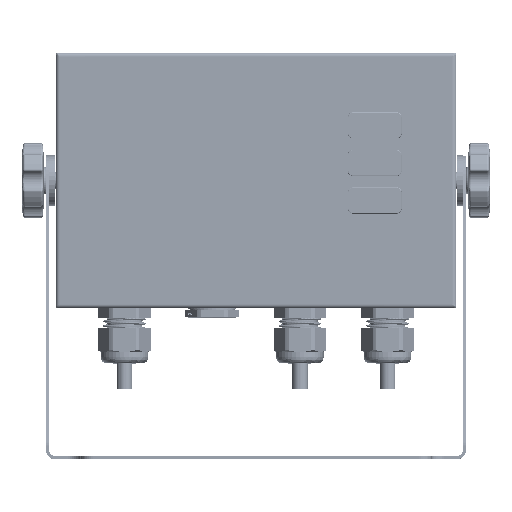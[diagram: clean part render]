
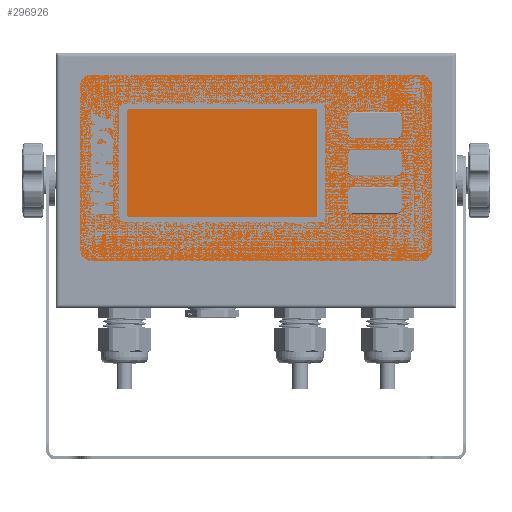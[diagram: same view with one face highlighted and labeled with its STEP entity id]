
A CAD part, top view. The second image highlights one B-rep face of the part: STEP entity #296926.
In plain terms, the highlighted planar face has unit normal (0, 0, 1).
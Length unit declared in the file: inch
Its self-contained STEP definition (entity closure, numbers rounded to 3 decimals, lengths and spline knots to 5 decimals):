
#17389 = ORIENTED_EDGE ( 'NONE', *, *, #82419, .T. ) ;
#18864 = FACE_OUTER_BOUND ( 'NONE', #468359, .T. ) ;
#22501 = CARTESIAN_POINT ( 'NONE',  ( -3.272, 1.863, 0.006 ) ) ;
#28055 = CARTESIAN_POINT ( 'NONE',  ( -3.272, 1.613, 0.006 ) ) ;
#31004 = CARTESIAN_POINT ( 'NONE',  ( 3.522, 1.613, 0.006 ) ) ;
#36581 = DIRECTION ( 'NONE',  ( 1., 0., 0. ) ) ;
#43484 = CARTESIAN_POINT ( 'NONE',  ( 3.272, 1.613, 0.006 ) ) ;
#50592 = CIRCLE ( 'NONE', #442113, 0.25 ) ;
#60257 = DIRECTION ( 'NONE',  ( 0., 0., 1. ) ) ;
#67425 = VERTEX_POINT ( 'NONE', #633412 ) ;
#68262 = VERTEX_POINT ( 'NONE', #471980 ) ;
#82419 = EDGE_CURVE ( 'NONE', #307355, #82612, #552562, .T. ) ;
#82612 = VERTEX_POINT ( 'NONE', #159006 ) ;
#116197 = EDGE_CURVE ( 'NONE', #662486, #678383, #481226, .T. ) ;
#124418 = ORIENTED_EDGE ( 'NONE', *, *, #240919, .T. ) ;
#138037 = ORIENTED_EDGE ( 'NONE', *, *, #116197, .T. ) ;
#159006 = CARTESIAN_POINT ( 'NONE',  ( 3.272, 1.863, 0.006 ) ) ;
#183485 = DIRECTION ( 'NONE',  ( 1., 0., 0. ) ) ;
#197388 = CARTESIAN_POINT ( 'NONE',  ( -3.272, -1.863, 0.006 ) ) ;
#207441 = CARTESIAN_POINT ( 'NONE',  ( 3.522, 1.613, 0.006 ) ) ;
#228504 = EDGE_CURVE ( 'NONE', #67425, #352405, #348190, .T. ) ;
#240919 = EDGE_CURVE ( 'NONE', #247804, #307355, #241232, .T. ) ;
#241232 = LINE ( 'NONE', #31004, #584426 ) ;
#241754 = EDGE_CURVE ( 'NONE', #352405, #247804, #50592, .T. ) ;
#244738 = DIRECTION ( 'NONE',  ( 0., 1., 0. ) ) ;
#247804 = VERTEX_POINT ( 'NONE', #287214 ) ;
#260666 = AXIS2_PLACEMENT_3D ( 'NONE', #491068, #60257, #501409 ) ;
#264059 = DIRECTION ( 'NONE',  ( 0., 0., 1. ) ) ;
#287214 = CARTESIAN_POINT ( 'NONE',  ( 3.522, -1.613, 0.006 ) ) ;
#295495 = PLANE ( 'NONE',  #386209 ) ;
#296383 = ORIENTED_EDGE ( 'NONE', *, *, #241754, .T. ) ;
#296926 = ADVANCED_FACE ( 'NONE', ( #18864 ), #295495, .T. ) ;
#307355 = VERTEX_POINT ( 'NONE', #207441 ) ;
#316680 = CIRCLE ( 'NONE', #260666, 0.25 ) ;
#348190 = LINE ( 'NONE', #197388, #353059 ) ;
#352405 = VERTEX_POINT ( 'NONE', #411709 ) ;
#353059 = VECTOR ( 'NONE', #411012, 39.37008 ) ;
#373267 = CARTESIAN_POINT ( 'NONE',  ( -3.272, 1.863, 0.006 ) ) ;
#386209 = AXIS2_PLACEMENT_3D ( 'NONE', #673814, #403996, #183485 ) ;
#403996 = DIRECTION ( 'NONE',  ( 0., 0., 1. ) ) ;
#411012 = DIRECTION ( 'NONE',  ( 1., 0., 0. ) ) ;
#411709 = CARTESIAN_POINT ( 'NONE',  ( 3.272, -1.863, 0.006 ) ) ;
#420402 = DIRECTION ( 'NONE',  ( 0., -1., 0. ) ) ;
#435957 = VECTOR ( 'NONE', #420402, 39.37008 ) ;
#442113 = AXIS2_PLACEMENT_3D ( 'NONE', #453175, #607527, #502343 ) ;
#453175 = CARTESIAN_POINT ( 'NONE',  ( 3.272, -1.613, 0.006 ) ) ;
#468359 = EDGE_LOOP ( 'NONE', ( #138037, #595477, #641817, #532305, #296383, #124418, #17389, #557000 ) ) ;
#471980 = CARTESIAN_POINT ( 'NONE',  ( -3.522, -1.613, 0.006 ) ) ;
#481226 = CIRCLE ( 'NONE', #492252, 0.25 ) ;
#491068 = CARTESIAN_POINT ( 'NONE',  ( -3.272, -1.613, 0.006 ) ) ;
#492252 = AXIS2_PLACEMENT_3D ( 'NONE', #28055, #620072, #560580 ) ;
#501409 = DIRECTION ( 'NONE',  ( 1., 0., 0. ) ) ;
#502343 = DIRECTION ( 'NONE',  ( 1., 0., 0. ) ) ;
#502407 = LINE ( 'NONE', #22501, #685533 ) ;
#522135 = CARTESIAN_POINT ( 'NONE',  ( -3.522, 1.613, 0.006 ) ) ;
#532305 = ORIENTED_EDGE ( 'NONE', *, *, #228504, .T. ) ;
#545403 = EDGE_CURVE ( 'NONE', #678383, #68262, #630745, .T. ) ;
#552562 = CIRCLE ( 'NONE', #608602, 0.25 ) ;
#557000 = ORIENTED_EDGE ( 'NONE', *, *, #637620, .T. ) ;
#560580 = DIRECTION ( 'NONE',  ( 1., 0., 0. ) ) ;
#584426 = VECTOR ( 'NONE', #244738, 39.37008 ) ;
#591157 = CARTESIAN_POINT ( 'NONE',  ( -3.522, 1.613, 0.006 ) ) ;
#595477 = ORIENTED_EDGE ( 'NONE', *, *, #545403, .T. ) ;
#607527 = DIRECTION ( 'NONE',  ( 0., 0., 1. ) ) ;
#608602 = AXIS2_PLACEMENT_3D ( 'NONE', #43484, #264059, #36581 ) ;
#620072 = DIRECTION ( 'NONE',  ( 0., 0., 1. ) ) ;
#630745 = LINE ( 'NONE', #522135, #435957 ) ;
#633412 = CARTESIAN_POINT ( 'NONE',  ( -3.272, -1.863, 0.006 ) ) ;
#637620 = EDGE_CURVE ( 'NONE', #82612, #662486, #502407, .T. ) ;
#641817 = ORIENTED_EDGE ( 'NONE', *, *, #660935, .T. ) ;
#656735 = DIRECTION ( 'NONE',  ( -1., 0., 0. ) ) ;
#660935 = EDGE_CURVE ( 'NONE', #68262, #67425, #316680, .T. ) ;
#662486 = VERTEX_POINT ( 'NONE', #373267 ) ;
#673814 = CARTESIAN_POINT ( 'NONE',  ( -3.272, 1.613, 0.006 ) ) ;
#678383 = VERTEX_POINT ( 'NONE', #591157 ) ;
#685533 = VECTOR ( 'NONE', #656735, 39.37008 ) ;
